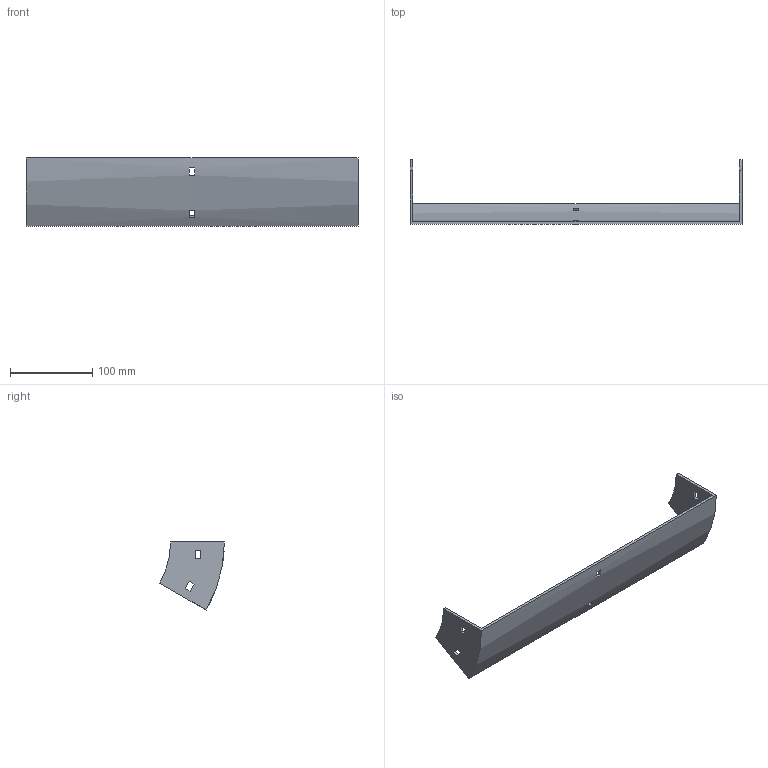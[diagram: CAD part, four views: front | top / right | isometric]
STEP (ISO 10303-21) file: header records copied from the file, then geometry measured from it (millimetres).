
FILE_DESCRIPTION (( 'STEP AP214' ), '1' );
FILE_NAME ('32B1H400.step', '2025-02-21T09:44:11', ( '' ), ( '' ), 'SwSTEP 2.0', 'SolidWorks 2023', '' );
FILE_SCHEMA (( 'AUTOMOTIVE_DESIGN' ));
Length unit declared in the file: millimetre
Products named in the file (1): 32B1H400
Bounding box: 404 x 78.9 x 82.75 mm (x, y, z)
Volume: 149612.4 mm3; surface area: 90255.9 mm2
Topology: 1 solids, 1 shells, 34 faces, 96 edges, 64 vertices
Faces by surface type: plane 30, cylinder 4
Entity records: 1143 total; most frequent: CARTESIAN_POINT 195, ORIENTED_EDGE 192, DIRECTION 182, EDGE_CURVE 96, LINE 80, VECTOR 80, VERTEX_POINT 64, AXIS2_PLACEMENT_3D 51
